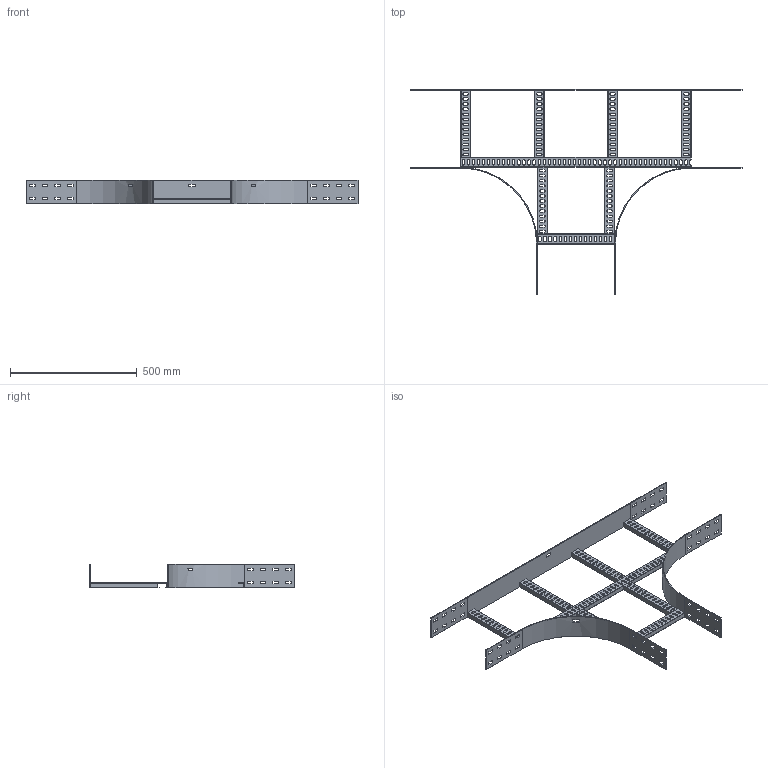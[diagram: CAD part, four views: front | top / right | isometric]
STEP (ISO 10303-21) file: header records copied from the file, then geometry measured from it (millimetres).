
FILE_DESCRIPTION(/* description */ ('','CAx-IF Rec.Pracs.---Representation and Presentation of Product Manufacturing Information (PMI)---4.0---2014-10-13'),/* implementation_level */ '2;1');
FILE_NAME(/* name */ 'Eurostrut_EET100-300-300_T-Piece for Cable Ladder ECL.step',/* time_stamp */ '2026-09-03T15:50:32+02:00',/* author */ (''),/* organization */ (''),/* preprocessor_version */ 'ST-DEVELOPER v20.1',/* originating_system */ 'Autodesk Revit 2027 27.2.0.39',/* authorisation */ '');
FILE_SCHEMA (('AP242_MANAGED_MODEL_BASED_3D_ENGINEERING_MIM_LF { 1 0 10303 442 2 1 4 }'));
Length unit declared in the file: millimetre
Products named in the file (9): TopLevelAssembly; Sweep; Sweep_1; Eurostrut_Cable Ladder_Rung_With slots; Eurostrut_Cable Ladder_Rung_With slots_1; Eurostrut_Cable Ladder_Rung Array Straight_Slotted; Eurostrut_Cable Ladder_Rung Array Straight_Slotted_1; Sweep_2; Eurostrut_Cable Ladder_Accessory End_54-94-142
Assembly tree (13 placements, depth 2):
  TopLevelAssembly
    Sweep
    Sweep_1
    Eurostrut_Cable Ladder_Rung_With slots
    Eurostrut_Cable Ladder_Rung_With slots_1
    Eurostrut_Cable Ladder_Rung Array Straight_Slotted
    Eurostrut_Cable Ladder_Rung Array Straight_Slotted_1
    Sweep_2
    Eurostrut_Cable Ladder_Accessory End_54-94-142  x6
Bounding box: 1311 x 811 x 94.04 mm (x, y, z)
Volume: 1168794.7 mm3; surface area: 1063739.4 mm2
Topology: 17 solids, 17 shells, 958 faces, 2772 edges, 1848 vertices
Faces by surface type: plane 644, bspline 278, cylinder 36
Entity records: 33974 total; most frequent: CARTESIAN_POINT 13064, ORIENTED_EDGE 4464, DIRECTION 3892, EDGE_CURVE 2232, LINE 1596, VECTOR 1596, VERTEX_POINT 1488, AXIS2_PLACEMENT_3D 1148
